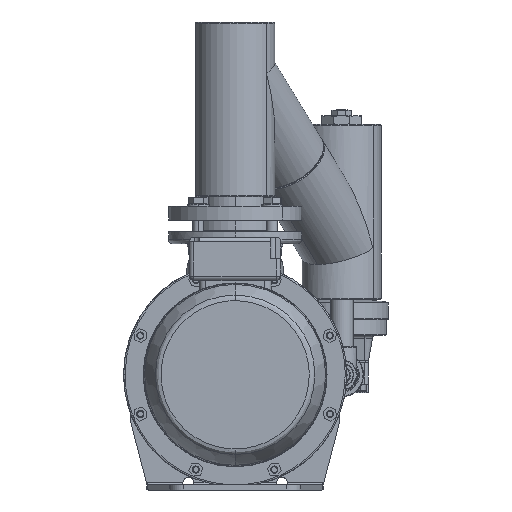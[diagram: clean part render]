
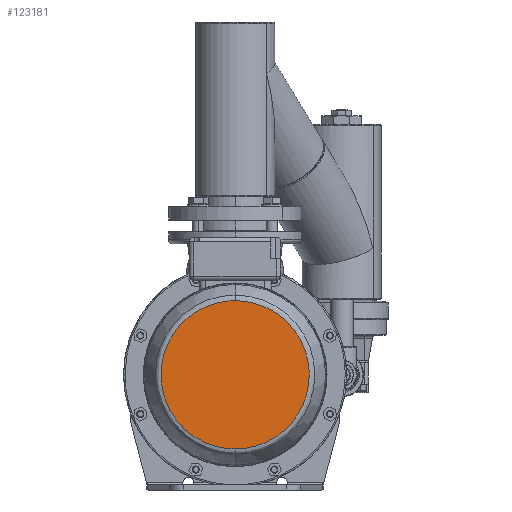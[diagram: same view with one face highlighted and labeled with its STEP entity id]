
A CAD part, front view. The second image highlights one B-rep face of the part: STEP entity #123181.
In plain terms, the highlighted planar face has unit normal (0, -1, 0).
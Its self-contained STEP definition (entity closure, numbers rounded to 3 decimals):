
#77963 = VERTEX_POINT ( 'NONE', #85077 ) ;
#79538 = VERTEX_POINT ( 'NONE', #87180 ) ;
#85077 = CARTESIAN_POINT ( 'NONE',  ( -156.369, -800.532, -78.019 ) ) ;
#87180 = CARTESIAN_POINT ( 'NONE',  ( -156.369, -800.532, 128.019 ) ) ;
#111285 = CARTESIAN_POINT ( 'NONE',  ( -156.369, -800.532, 128.019 ) ) ;
#111286 = CARTESIAN_POINT ( 'NONE',  ( -362.407, -800.532, 128.019 ) ) ;
#111287 = CARTESIAN_POINT ( 'NONE',  ( -362.407, -800.532, -78.019 ) ) ;
#111288 = CARTESIAN_POINT ( 'NONE',  ( -156.369, -800.532, -78.019 ) ) ;
#111290 =( BOUNDED_CURVE ( )  B_SPLINE_CURVE ( 3, ( #111288, #111287, #111286, #111285 ),
 .UNSPECIFIED., .F., .T. ) 
 B_SPLINE_CURVE_WITH_KNOTS ( ( 4, 4 ),
 ( 0., 1. ),
 .UNSPECIFIED. ) 
 CURVE ( )  GEOMETRIC_REPRESENTATION_ITEM ( )  RATIONAL_B_SPLINE_CURVE ( ( 1., 0.333, 0.333, 1. ) ) 
 REPRESENTATION_ITEM ( '' )  );
#119886 = EDGE_CURVE ( 'NONE', #77963, #79538, #111290, .T. ) ;
#122551 = ORIENTED_EDGE ( 'NONE', *, *, #123165, .F. ) ;
#123048 = ORIENTED_EDGE ( 'NONE', *, *, #119886, .F. ) ;
#123165 = EDGE_CURVE ( 'NONE', #79538, #77963, #134349, .T. ) ;
#123181 = ADVANCED_FACE ( 'NONE', ( #134343 ), #134375, .T. ) ;
#123195 = EDGE_LOOP ( 'NONE', ( #123048, #122551 ) ) ;
#134338 = DIRECTION ( 'NONE',  ( 0., -1., 0. ) ) ;
#134340 = CARTESIAN_POINT ( 'NONE',  ( -156.369, -800.532, 25. ) ) ;
#134343 = FACE_OUTER_BOUND ( 'NONE', #123195, .T. ) ;
#134349 =( BOUNDED_CURVE ( )  B_SPLINE_CURVE ( 3, ( #134481, #134479, #134477, #134475 ),
 .UNSPECIFIED., .F., .T. ) 
 B_SPLINE_CURVE_WITH_KNOTS ( ( 4, 4 ),
 ( 0., 1. ),
 .UNSPECIFIED. ) 
 CURVE ( )  GEOMETRIC_REPRESENTATION_ITEM ( )  RATIONAL_B_SPLINE_CURVE ( ( 1., 0.333, 0.333, 1. ) ) 
 REPRESENTATION_ITEM ( '' )  );
#134357 = AXIS2_PLACEMENT_3D ( 'NONE', #134340, #134338, #134444 ) ;
#134375 = PLANE ( 'NONE',  #134357 ) ;
#134444 = DIRECTION ( 'NONE',  ( 1., 0., 0. ) ) ;
#134475 = CARTESIAN_POINT ( 'NONE',  ( -156.369, -800.532, -78.019 ) ) ;
#134477 = CARTESIAN_POINT ( 'NONE',  ( 49.669, -800.532, -78.019 ) ) ;
#134479 = CARTESIAN_POINT ( 'NONE',  ( 49.669, -800.532, 128.019 ) ) ;
#134481 = CARTESIAN_POINT ( 'NONE',  ( -156.369, -800.532, 128.019 ) ) ;
